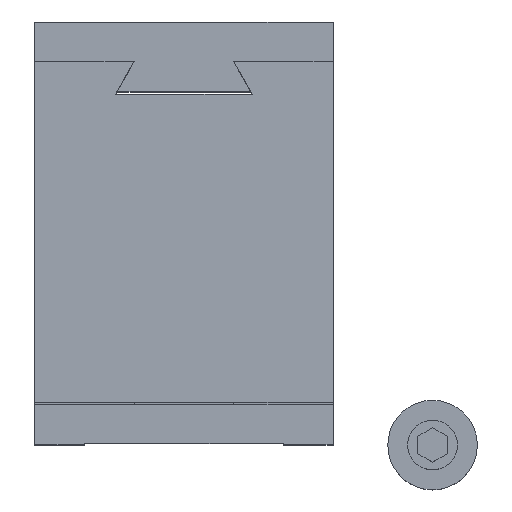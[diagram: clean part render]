
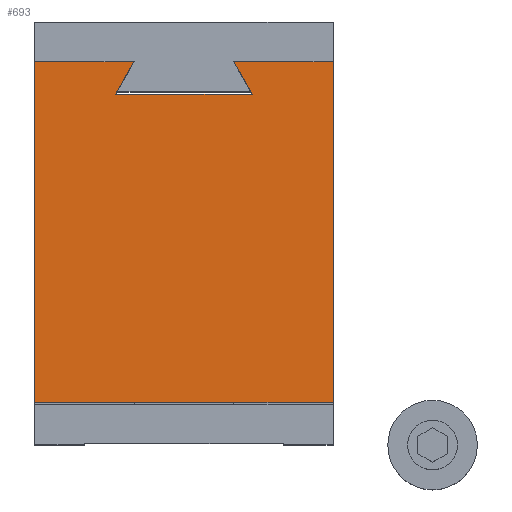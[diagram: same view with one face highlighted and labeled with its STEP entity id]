
A CAD part, top view. The second image highlights one B-rep face of the part: STEP entity #693.
In plain terms, the highlighted planar face has unit normal (0, 0, 1).
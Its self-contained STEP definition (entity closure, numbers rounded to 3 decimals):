
#139 = EDGE_LOOP ( 'NONE', ( #694, #476, #479, #482, #485, #306, #669, #599 ) ) ;
#306 = ORIENTED_EDGE ( 'NONE', *, *, #638, .F. ) ;
#475 = VERTEX_POINT ( 'NONE', #5438 ) ;
#476 = ORIENTED_EDGE ( 'NONE', *, *, #477, .F. ) ;
#477 = EDGE_CURVE ( 'NONE', #478, #475, #5437, .T. ) ;
#478 = VERTEX_POINT ( 'NONE', #5433 ) ;
#479 = ORIENTED_EDGE ( 'NONE', *, *, #480, .F. ) ;
#480 = EDGE_CURVE ( 'NONE', #481, #478, #5432, .T. ) ;
#481 = VERTEX_POINT ( 'NONE', #5428 ) ;
#482 = ORIENTED_EDGE ( 'NONE', *, *, #483, .F. ) ;
#483 = EDGE_CURVE ( 'NONE', #484, #481, #5427, .T. ) ;
#484 = VERTEX_POINT ( 'NONE', #5423 ) ;
#485 = ORIENTED_EDGE ( 'NONE', *, *, #486, .F. ) ;
#486 = EDGE_CURVE ( 'NONE', #487, #484, #5422, .T. ) ;
#487 = VERTEX_POINT ( 'NONE', #5418 ) ;
#599 = ORIENTED_EDGE ( 'NONE', *, *, #618, .T. ) ;
#604 = VERTEX_POINT ( 'NONE', #5375 ) ;
#618 = EDGE_CURVE ( 'NONE', #604, #696, #5489, .T. ) ;
#638 = EDGE_CURVE ( 'NONE', #667, #487, #2707, .T. ) ;
#666 = EDGE_CURVE ( 'NONE', #604, #667, #2619, .T. ) ;
#667 = VERTEX_POINT ( 'NONE', #2615 ) ;
#669 = ORIENTED_EDGE ( 'NONE', *, *, #666, .F. ) ;
#693 = ADVANCED_FACE ( 'NONE', ( #2766 ), #2765, .F. ) ;
#694 = ORIENTED_EDGE ( 'NONE', *, *, #695, .T. ) ;
#695 = EDGE_CURVE ( 'NONE', #696, #475, #2792, .T. ) ;
#696 = VERTEX_POINT ( 'NONE', #2788 ) ;
#2612 = DIRECTION ( 'NONE',  ( -0.5, -0.866, 0. ) ) ;
#2613 = VECTOR ( 'NONE', #2612, 1000. ) ;
#2614 = CARTESIAN_POINT ( 'NONE',  ( -10., 77., 30. ) ) ;
#2615 = CARTESIAN_POINT ( 'NONE',  ( -10., 77., 30. ) ) ;
#2616 = DIRECTION ( 'NONE',  ( 1., 0., 0. ) ) ;
#2617 = VECTOR ( 'NONE', #2616, 1000. ) ;
#2618 = CARTESIAN_POINT ( 'NONE',  ( -30., 77., 30. ) ) ;
#2619 = LINE ( 'NONE', #2618, #2617 ) ;
#2706 = DIRECTION ( 'NONE',  ( 0., -1., 0. ) ) ;
#2707 = LINE ( 'NONE', #2614, #2613 ) ;
#2761 = DIRECTION ( 'NONE',  ( -1., 0., 0. ) ) ;
#2762 = DIRECTION ( 'NONE',  ( 0., 0., -1. ) ) ;
#2763 = CARTESIAN_POINT ( 'NONE',  ( -30., 67., 30. ) ) ;
#2764 = AXIS2_PLACEMENT_3D ( 'NONE', #2763, #2762, #2761 ) ;
#2765 = PLANE ( 'NONE',  #2764 ) ;
#2766 = FACE_OUTER_BOUND ( 'NONE', #139, .T. ) ;
#2788 = CARTESIAN_POINT ( 'NONE',  ( -30., 8.5, 30. ) ) ;
#2789 = DIRECTION ( 'NONE',  ( 1., 0., 0. ) ) ;
#2790 = VECTOR ( 'NONE', #2789, 1000. ) ;
#2791 = CARTESIAN_POINT ( 'NONE',  ( -30., 8.5, 30. ) ) ;
#2792 = LINE ( 'NONE', #2791, #2790 ) ;
#5375 = CARTESIAN_POINT ( 'NONE',  ( -30., 77., 30. ) ) ;
#5418 = CARTESIAN_POINT ( 'NONE',  ( -13.753, 70.5, 30. ) ) ;
#5419 = DIRECTION ( 'NONE',  ( 1., 0., 0. ) ) ;
#5420 = VECTOR ( 'NONE', #5419, 1000. ) ;
#5421 = CARTESIAN_POINT ( 'NONE',  ( -13.753, 70.5, 30. ) ) ;
#5422 = LINE ( 'NONE', #5421, #5420 ) ;
#5423 = CARTESIAN_POINT ( 'NONE',  ( 13.753, 70.5, 30. ) ) ;
#5424 = DIRECTION ( 'NONE',  ( -0.5, 0.866, 0. ) ) ;
#5425 = VECTOR ( 'NONE', #5424, 1000. ) ;
#5426 = CARTESIAN_POINT ( 'NONE',  ( 13.753, 70.5, 30. ) ) ;
#5427 = LINE ( 'NONE', #5426, #5425 ) ;
#5428 = CARTESIAN_POINT ( 'NONE',  ( 10., 77., 30. ) ) ;
#5429 = DIRECTION ( 'NONE',  ( 1., 0., 0. ) ) ;
#5430 = VECTOR ( 'NONE', #5429, 1000. ) ;
#5431 = CARTESIAN_POINT ( 'NONE',  ( 10., 77., 30. ) ) ;
#5432 = LINE ( 'NONE', #5431, #5430 ) ;
#5433 = CARTESIAN_POINT ( 'NONE',  ( 30., 77., 30. ) ) ;
#5434 = DIRECTION ( 'NONE',  ( 0., -1., 0. ) ) ;
#5435 = VECTOR ( 'NONE', #5434, 1000. ) ;
#5436 = CARTESIAN_POINT ( 'NONE',  ( 30., 67., 30. ) ) ;
#5437 = LINE ( 'NONE', #5436, #5435 ) ;
#5438 = CARTESIAN_POINT ( 'NONE',  ( 30., 8.5, 30. ) ) ;
#5487 = VECTOR ( 'NONE', #2706, 1000. ) ;
#5488 = CARTESIAN_POINT ( 'NONE',  ( -30., 67., 30. ) ) ;
#5489 = LINE ( 'NONE', #5488, #5487 ) ;
